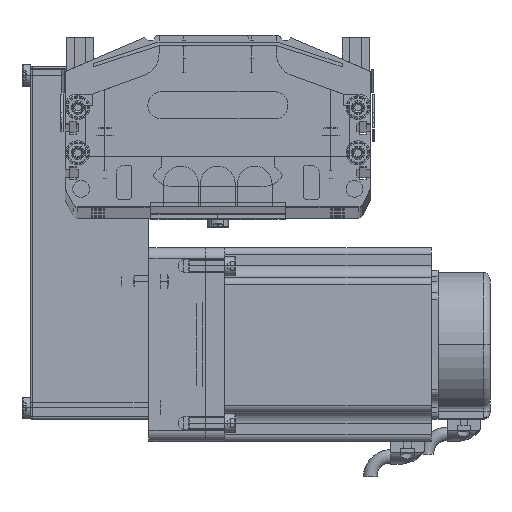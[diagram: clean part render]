
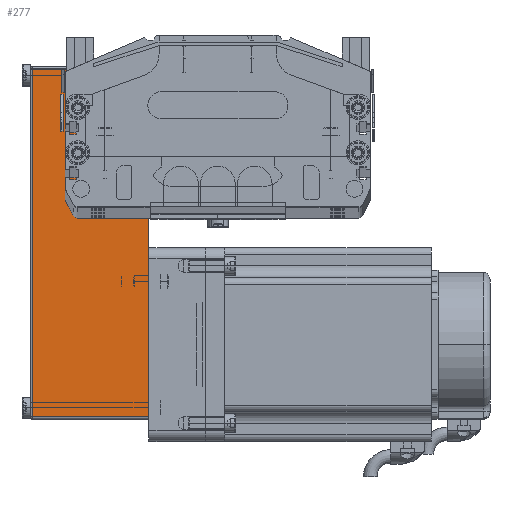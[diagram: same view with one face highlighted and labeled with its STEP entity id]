
A CAD part, top view. The second image highlights one B-rep face of the part: STEP entity #277.
In plain terms, the highlighted planar face has unit normal (0, 0, 1) as drawn and (0, -1, 0) by its records, which use the part's own axes.
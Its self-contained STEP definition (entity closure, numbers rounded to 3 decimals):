
#47 = VERTEX_POINT ( 'NONE', #30300 ) ;
#198 = EDGE_CURVE ( 'NONE', #203, #207, #31029, .T. ) ;
#200 = ORIENTED_EDGE ( 'NONE', *, *, #208, .T. ) ;
#203 = VERTEX_POINT ( 'NONE', #30864 ) ;
#207 = VERTEX_POINT ( 'NONE', #31061 ) ;
#208 = EDGE_CURVE ( 'NONE', #207, #47, #30988, .T. ) ;
#237 = VERTEX_POINT ( 'NONE', #30884 ) ;
#249 = EDGE_CURVE ( 'NONE', #47, #237, #30906, .T. ) ;
#266 = ORIENTED_EDGE ( 'NONE', *, *, #275, .T. ) ;
#273 = ORIENTED_EDGE ( 'NONE', *, *, #249, .T. ) ;
#275 = EDGE_CURVE ( 'NONE', #237, #203, #30895, .T. ) ;
#277 = ADVANCED_FACE ( 'NONE', ( #31022 ), #31021, .F. ) ;
#278 = EDGE_LOOP ( 'NONE', ( #200, #273, #266, #285 ) ) ;
#285 = ORIENTED_EDGE ( 'NONE', *, *, #198, .T. ) ;
#30300 = CARTESIAN_POINT ( 'NONE',  ( 31., -40., 0. ) ) ;
#30862 = VECTOR ( 'NONE', #31046, 1000. ) ;
#30864 = CARTESIAN_POINT ( 'NONE',  ( -123.2, -40., 51.5 ) ) ;
#30883 = DIRECTION ( 'NONE',  ( -1., 0., 0. ) ) ;
#30884 = CARTESIAN_POINT ( 'NONE',  ( 31., -40., 51.5 ) ) ;
#30894 = CARTESIAN_POINT ( 'NONE',  ( 32., -40., 51.5 ) ) ;
#30895 = LINE ( 'NONE', #30894, #31045 ) ;
#30897 = DIRECTION ( 'NONE',  ( 0., 0., -1. ) ) ;
#30906 = LINE ( 'NONE', #31047, #30862 ) ;
#30949 = DIRECTION ( 'NONE',  ( -1., 0., 0. ) ) ;
#30950 = AXIS2_PLACEMENT_3D ( 'NONE', #31025, #31043, #30883 ) ;
#30985 = DIRECTION ( 'NONE',  ( 1., 0., 0. ) ) ;
#30986 = VECTOR ( 'NONE', #30985, 1000. ) ;
#30987 = CARTESIAN_POINT ( 'NONE',  ( 32., -40., 0. ) ) ;
#30988 = LINE ( 'NONE', #30987, #30986 ) ;
#31021 = PLANE ( 'NONE',  #30950 ) ;
#31022 = FACE_OUTER_BOUND ( 'NONE', #278, .T. ) ;
#31025 = CARTESIAN_POINT ( 'NONE',  ( 32., -40., 52.5 ) ) ;
#31027 = VECTOR ( 'NONE', #30897, 1000. ) ;
#31028 = CARTESIAN_POINT ( 'NONE',  ( -123.2, -40., 52.5 ) ) ;
#31029 = LINE ( 'NONE', #31028, #31027 ) ;
#31043 = DIRECTION ( 'NONE',  ( 0., 1., 0. ) ) ;
#31045 = VECTOR ( 'NONE', #30949, 1000. ) ;
#31046 = DIRECTION ( 'NONE',  ( 0., 0., 1. ) ) ;
#31047 = CARTESIAN_POINT ( 'NONE',  ( 31., -40., 52.5 ) ) ;
#31061 = CARTESIAN_POINT ( 'NONE',  ( -123.2, -40., 0. ) ) ;
